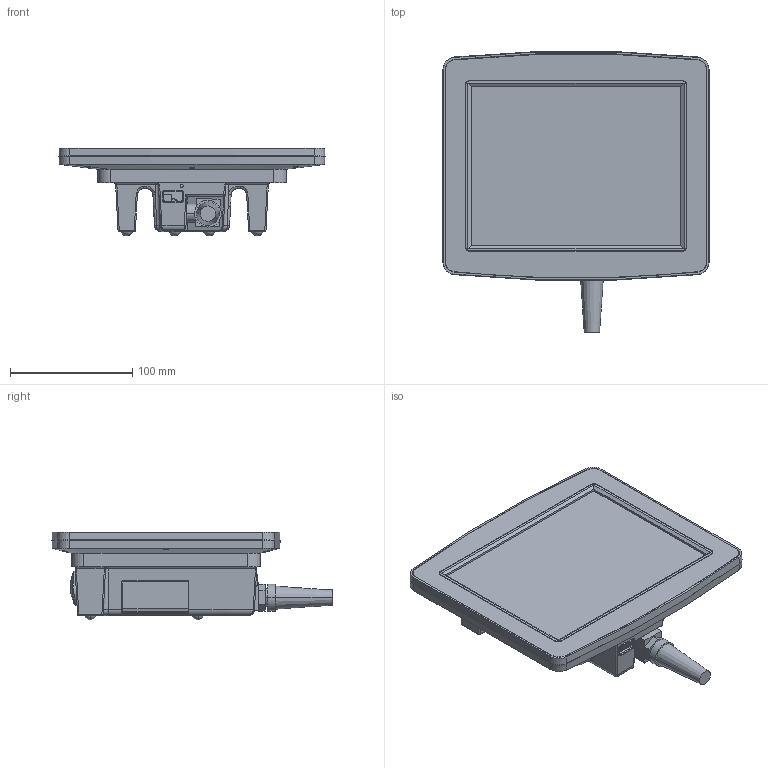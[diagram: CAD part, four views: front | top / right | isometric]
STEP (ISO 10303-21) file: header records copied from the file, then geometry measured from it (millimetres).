
FILE_DESCRIPTION (( 'STEP AP214' ), '1' );
FILE_NAME ('HGT835 Support.STEP', '2016-05-09T05:07:12', ( 'SIGMATEK GmbH & Co KG' ), ( 'SIGMATEK GmbH & Co KG' ), 'SwSTEP 2.0', 'SolidWorks 2015', '' );
FILE_SCHEMA (( 'AUTOMOTIVE_DESIGN' ));
Length unit declared in the file: millimetre
Products named in the file (12): Folie-HGT835-E; display_ohne Touchabgang; Gehäuse Front für HGT835; HGT835 Support; Blindstopfen_Schluesselschalter; Rutschschutz; halteblech; Abdeckung Zustimmtaster; Kabelverschraubung; Blindstopfen 22mm; Gehäuse Rückteil für HGT835; Gehäuse Mittelteil für HGT835
Assembly tree (14 placements, depth 2):
  HGT835 Support
    Gehäuse Front für HGT835
    display_ohne Touchabgang
    Folie-HGT835-E
    Gehäuse Mittelteil für HGT835
    Gehäuse Rückteil für HGT835
    Blindstopfen 22mm
    Kabelverschraubung
    Abdeckung Zustimmtaster
    halteblech
    Rutschschutz  x4
    Blindstopfen_Schluesselschalter
Bounding box: 217.42 x 229.33 x 71.7 mm (x, y, z)
Volume: 343868.9 mm3; surface area: 316708.5 mm2
Topology: 14 solids, 14 shells, 757 faces, 1936 edges, 1243 vertices
Faces by surface type: plane 339, cylinder 238, cone 91, bspline 64, sphere 19, torus 6
Entity records: 28960 total; most frequent: CARTESIAN_POINT 10647, ORIENTED_EDGE 3802, DIRECTION 3574, EDGE_CURVE 1901, AXIS2_PLACEMENT_3D 1241, VERTEX_POINT 1222, LINE 1092, VECTOR 1092
